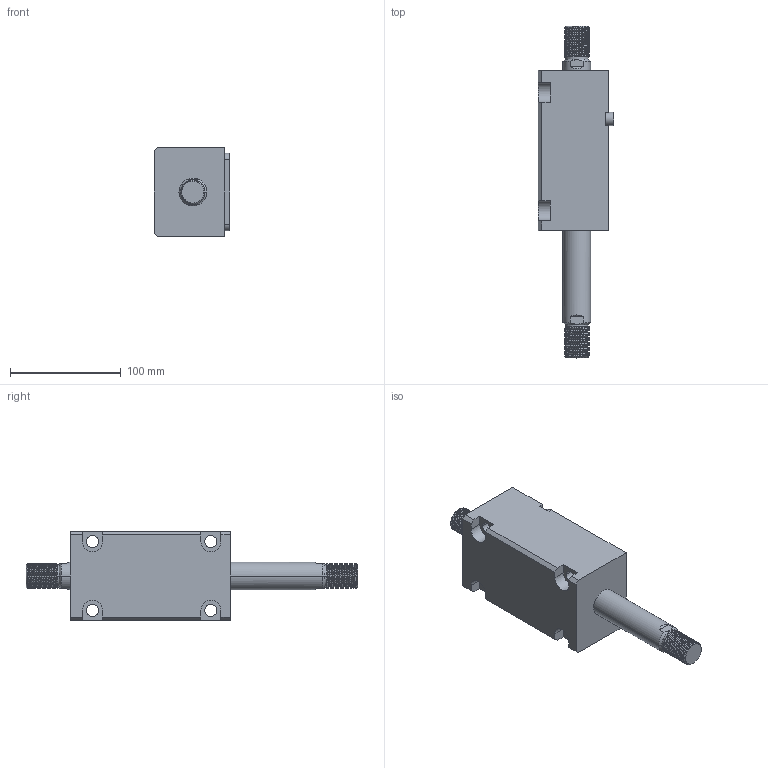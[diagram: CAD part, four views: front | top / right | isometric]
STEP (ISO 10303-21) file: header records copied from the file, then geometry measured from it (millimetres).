
FILE_DESCRIPTION (( 'STEP AP214' ), '1' );
FILE_NAME ('chtb-lwm40x75w_asm.STEP', '2018-05-31T00:47:58', ( 'Windows' ), ( 'Microsoft' ), 'SwSTEP 2.0', 'SolidWorks 2015', '' );
FILE_SCHEMA (( 'AUTOMOTIVE_DESIGN' ));
Length unit declared in the file: millimetre
Products named in the file (5): CHTB-SD40QG; CHTB-LWM40X75NBT; CHTB-LA40PJ; chtb-lwm40x75w_asm; CHTB-SW40X75NHSG
Assembly tree (4 placements, depth 2):
  chtb-lwm40x75w_asm
    CHTB-LA40PJ
    CHTB-LWM40X75NBT
    CHTB-SD40QG
    CHTB-SW40X75NHSG
Bounding box: 68.5 x 300 x 80 mm (x, y, z)
Volume: 718651.9 mm3; surface area: 119040.4 mm2
Topology: 4 solids, 4 shells, 252 faces, 699 edges, 465 vertices
Faces by surface type: cylinder 152, plane 57, bspline 18, cone 13, torus 12
Entity records: 17373 total; most frequent: CARTESIAN_POINT 11260, ORIENTED_EDGE 1386, DIRECTION 1092, EDGE_CURVE 693, VERTEX_POINT 465, AXIS2_PLACEMENT_3D 419, EDGE_LOOP 284, LINE 254
